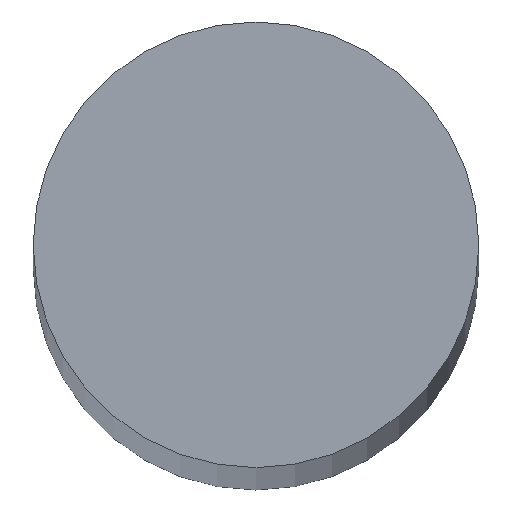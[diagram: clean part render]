
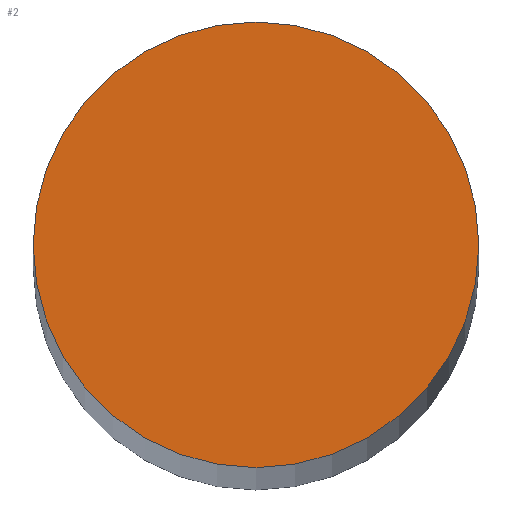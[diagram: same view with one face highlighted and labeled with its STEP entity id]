
A CAD part, top view. The second image highlights one B-rep face of the part: STEP entity #2.
In plain terms, the highlighted planar face has unit normal (0, 0, 1).
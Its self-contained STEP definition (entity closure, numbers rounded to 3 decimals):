
#2 = ADVANCED_FACE ( 'NONE', ( #8 ), #74, .T. ) ;
#8 = FACE_OUTER_BOUND ( 'NONE', #12, .T. ) ;
#12 = EDGE_LOOP ( 'NONE', ( #17, #16 ) ) ;
#16 = ORIENTED_EDGE ( 'NONE', *, *, #53, .T. ) ;
#17 = ORIENTED_EDGE ( 'NONE', *, *, #59, .T. ) ;
#36 = CIRCLE ( 'NONE', #63, 6. ) ;
#39 = CIRCLE ( 'NONE', #51, 6. ) ;
#51 = AXIS2_PLACEMENT_3D ( 'NONE', #104, #107, #108 ) ;
#53 = EDGE_CURVE ( 'NONE', #79, #80, #36, .T. ) ;
#59 = EDGE_CURVE ( 'NONE', #80, #79, #39, .T. ) ;
#61 = AXIS2_PLACEMENT_3D ( 'NONE', #82, #87, #88 ) ;
#63 = AXIS2_PLACEMENT_3D ( 'NONE', #101, #102, #103 ) ;
#74 = PLANE ( 'NONE',  #61 ) ;
#79 = VERTEX_POINT ( 'NONE', #116 ) ;
#80 = VERTEX_POINT ( 'NONE', #117 ) ;
#82 = CARTESIAN_POINT ( 'NONE',  ( 0., 0., 172.5 ) ) ;
#87 = DIRECTION ( 'NONE',  ( 0., 0., 1. ) ) ;
#88 = DIRECTION ( 'NONE',  ( 1., 0., 0. ) ) ;
#101 = CARTESIAN_POINT ( 'NONE',  ( 0., 0., 172.5 ) ) ;
#102 = DIRECTION ( 'NONE',  ( 0., 0., 1. ) ) ;
#103 = DIRECTION ( 'NONE',  ( 1., 0., 0. ) ) ;
#104 = CARTESIAN_POINT ( 'NONE',  ( 0., 0., 172.5 ) ) ;
#107 = DIRECTION ( 'NONE',  ( 0., 0., 1. ) ) ;
#108 = DIRECTION ( 'NONE',  ( 1., 0., 0. ) ) ;
#116 = CARTESIAN_POINT ( 'NONE',  ( 6., 0., 172.5 ) ) ;
#117 = CARTESIAN_POINT ( 'NONE',  ( -6., 0., 172.5 ) ) ;
